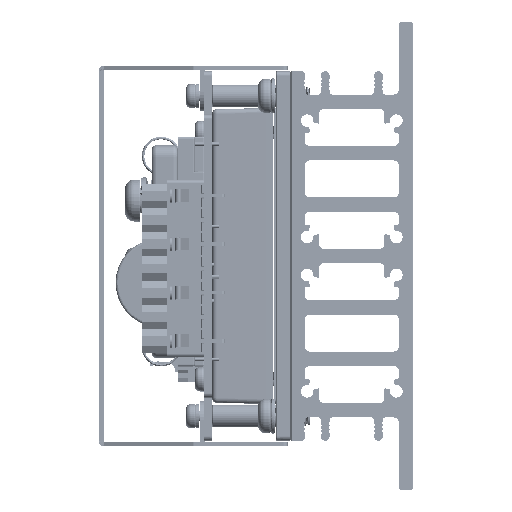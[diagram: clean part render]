
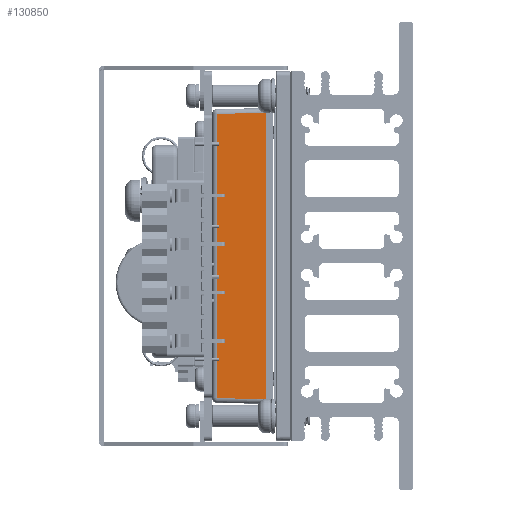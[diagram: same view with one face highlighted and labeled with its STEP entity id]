
A CAD part, left-side view. The second image highlights one B-rep face of the part: STEP entity #130850.
In plain terms, the highlighted planar face has unit normal (-1, 0.018, 0).
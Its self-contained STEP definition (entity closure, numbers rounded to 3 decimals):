
#1875 = AXIS2_PLACEMENT_3D ( 'NONE', #236601, #119491, #120755 ) ;
#10891 = DIRECTION ( 'NONE',  ( 0., 1., 0. ) ) ;
#13718 = CIRCLE ( 'NONE', #208902, 1. ) ;
#22710 = VECTOR ( 'NONE', #149335, 1000. ) ;
#27211 = EDGE_LOOP ( 'NONE', ( #162921, #210629, #130146, #134296, #159569 ) ) ;
#41789 = PLANE ( 'NONE',  #1875 ) ;
#44007 = CARTESIAN_POINT ( 'NONE',  ( -6.117, 18.117, 29.324 ) ) ;
#54748 = VECTOR ( 'NONE', #56779, 1000. ) ;
#56779 = DIRECTION ( 'NONE',  ( 0., 0., 1. ) ) ;
#62705 = VERTEX_POINT ( 'NONE', #44007 ) ;
#71668 = CARTESIAN_POINT ( 'NONE',  ( -6.117, 18.117, -30.306 ) ) ;
#82572 = CARTESIAN_POINT ( 'NONE',  ( -6.294, 8., 29.5 ) ) ;
#86868 = VECTOR ( 'NONE', #107682, 1000. ) ;
#90849 = EDGE_CURVE ( 'NONE', #150968, #159339, #13718, .T. ) ;
#92439 = EDGE_CURVE ( 'NONE', #142969, #129810, #105194, .T. ) ;
#100042 = LINE ( 'NONE', #115337, #54748 ) ;
#105194 = LINE ( 'NONE', #147115, #86868 ) ;
#107682 = DIRECTION ( 'NONE',  ( -0.017, -1., -0.017 ) ) ;
#115337 = CARTESIAN_POINT ( 'NONE',  ( -6.294, 8., -30.5 ) ) ;
#119491 = DIRECTION ( 'NONE',  ( -1., 0.017, 0. ) ) ;
#120755 = DIRECTION ( 'NONE',  ( 0.017, 1., 0. ) ) ;
#124647 = EDGE_CURVE ( 'NONE', #159339, #62705, #158192, .T. ) ;
#129810 = VERTEX_POINT ( 'NONE', #226464 ) ;
#130146 = ORIENTED_EDGE ( 'NONE', *, *, #124647, .T. ) ;
#130850 = ADVANCED_FACE ( 'NONE', ( #157683 ), #41789, .T. ) ;
#131272 = CARTESIAN_POINT ( 'NONE',  ( -6.294, 8., 29.5 ) ) ;
#134296 = ORIENTED_EDGE ( 'NONE', *, *, #215486, .T. ) ;
#142969 = VERTEX_POINT ( 'NONE', #172297 ) ;
#147115 = CARTESIAN_POINT ( 'NONE',  ( -6.276, 9.047, -29.482 ) ) ;
#149335 = DIRECTION ( 'NONE',  ( 0., 0., -1. ) ) ;
#150590 = LINE ( 'NONE', #71668, #22710 ) ;
#150968 = VERTEX_POINT ( 'NONE', #131272 ) ;
#157683 = FACE_OUTER_BOUND ( 'NONE', #27211, .T. ) ;
#158192 = LINE ( 'NONE', #198928, #196750 ) ;
#159339 = VERTEX_POINT ( 'NONE', #82572 ) ;
#159569 = ORIENTED_EDGE ( 'NONE', *, *, #92439, .T. ) ;
#162921 = ORIENTED_EDGE ( 'NONE', *, *, #173641, .T. ) ;
#172297 = CARTESIAN_POINT ( 'NONE',  ( -6.117, 18.117, -29.324 ) ) ;
#173641 = EDGE_CURVE ( 'NONE', #129810, #150968, #100042, .T. ) ;
#178572 = DIRECTION ( 'NONE',  ( 0.017, 1., -0.017 ) ) ;
#187805 = DIRECTION ( 'NONE',  ( 0., 0., 1. ) ) ;
#196750 = VECTOR ( 'NONE', #178572, 1000. ) ;
#198928 = CARTESIAN_POINT ( 'NONE',  ( -6.294, 7.983, 29.5 ) ) ;
#205665 = CARTESIAN_POINT ( 'NONE',  ( -5.294, 8., 29.5 ) ) ;
#208902 = AXIS2_PLACEMENT_3D ( 'NONE', #205665, #10891, #187805 ) ;
#210629 = ORIENTED_EDGE ( 'NONE', *, *, #90849, .T. ) ;
#215486 = EDGE_CURVE ( 'NONE', #62705, #142969, #150590, .T. ) ;
#226464 = CARTESIAN_POINT ( 'NONE',  ( -6.294, 8., -29.5 ) ) ;
#236601 = CARTESIAN_POINT ( 'NONE',  ( -6.294, 8., 30.5 ) ) ;
